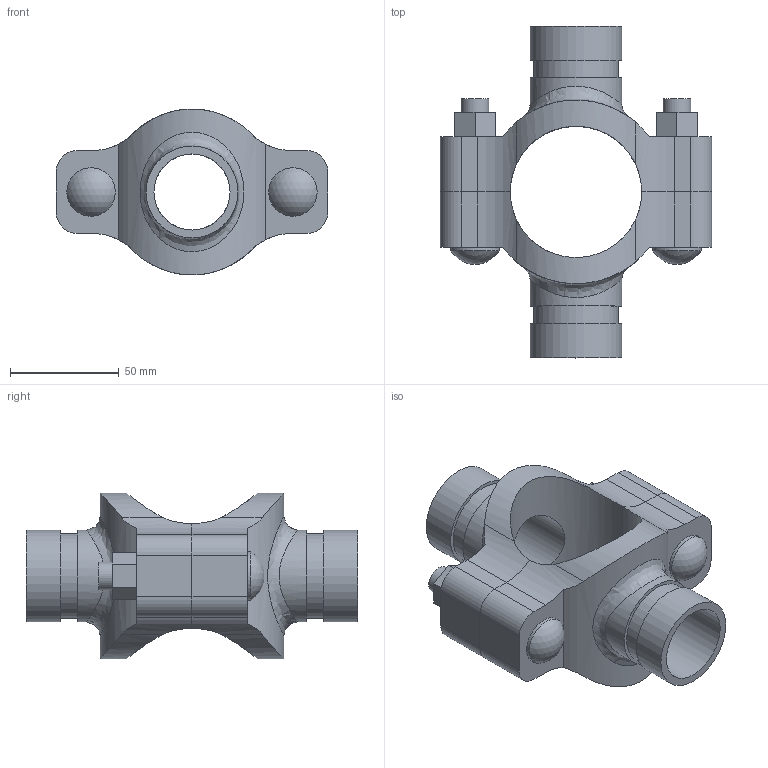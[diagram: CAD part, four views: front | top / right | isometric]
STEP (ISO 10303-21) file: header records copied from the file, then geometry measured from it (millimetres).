
FILE_DESCRIPTION(/* description */ ('VIC MECH-T BRANCH OUTLET CROSS STYLE 920N (GRVD)','CAx-IF Rec.Pracs.---Representation and Presentation of Product Manufacturing Information (PMI)---4.0---2014-10-13'),/* implementation_level */ '2;1');
FILE_NAME(/* name */ 'C:\Users\Vjadhav\AppData\Roaming\Autodesk\ApplicationPlugins\Back Up\Victaulic_IPS_Mechanical-Cross Outlet_Style 920N (OGS)\Victaulic_IPS_Mechanical-Cross Outlet_02.0x01.25x01.25 (50x32x32).stp',/* time_stamp */ '2020-08-06T19:43:01+05:00',/* author */ ('Vjadhav'),/* organization */ ('Victaulic'),/* preprocessor_version */ 'ST-DEVELOPER v17.2',/* originating_system */ 'Autodesk Inventor 2019',/* authorisation */ '');
FILE_SCHEMA (('AP242_MANAGED_MODEL_BASED_3D_ENGINEERING_MIM_LF { 1 0 10303 442 1 1 4 }'));
Length unit declared in the file: inch
Products named in the file (3): 920NG-02.0x01.25x01.25; 920NG-02.0x01.25; 920NG-02.0x01.25_1
Assembly tree (2 placements, depth 2):
  920NG-02.0x01.25x01.25
    920NG-02.0x01.25
    920NG-02.0x01.25_1
Bounding box: 124.71 x 152.4 x 76.17 mm (x, y, z)
Volume: 249536.9 mm3; surface area: 73861.7 mm2
Topology: 2 solids, 2 shells, 104 faces, 262 edges, 178 vertices
Faces by surface type: plane 54, cylinder 46, sphere 2, bspline 2
Full cylindrical faces by diameter (mm): 12.7 x4, 22.225 x2, 34.925 x2, 38.989 x2, 42.164 x4
Entity records: 4102 total; most frequent: CARTESIAN_POINT 1329, DIRECTION 532, ORIENTED_EDGE 524, EDGE_CURVE 262, AXIS2_PLACEMENT_3D 193, VERTEX_POINT 178, LINE 146, VECTOR 146
